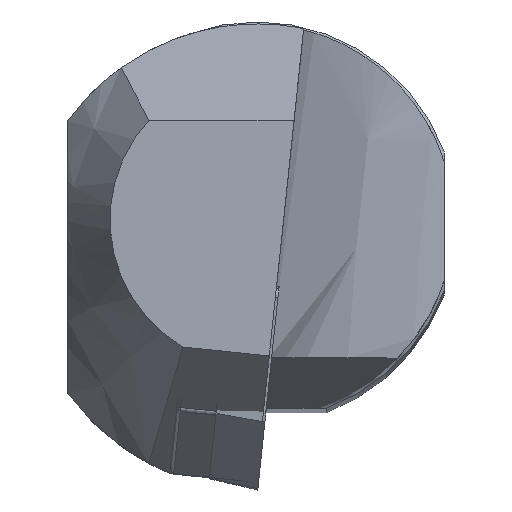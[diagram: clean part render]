
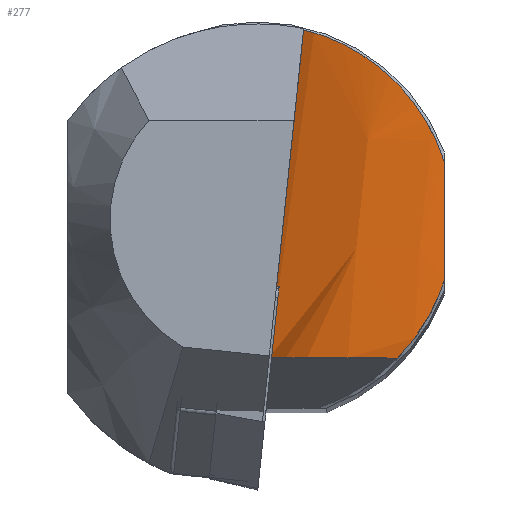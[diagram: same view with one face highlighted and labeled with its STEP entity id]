
A CAD part, top view. The second image highlights one B-rep face of the part: STEP entity #277.
In plain terms, the highlighted free-form (B-spline) face has degree [3, 3] with [4, 9] control points.
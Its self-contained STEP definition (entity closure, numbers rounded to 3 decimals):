
#101=B_SPLINE_SURFACE_WITH_KNOTS('',3,3,((#1968,#1969,#1970,#1971,#1972,
#1973,#1974,#1975,#1976),(#1977,#1978,#1979,#1980,#1981,#1982,#1983,#1984,
#1985),(#1986,#1987,#1988,#1989,#1990,#1991,#1992,#1993,#1994),(#1995,#1996,
#1997,#1998,#1999,#2000,#2001,#2002,#2003)),.UNSPECIFIED.,.F.,.F.,.F.,(4,
4),(4,1,2,1,1,4),(0.,1.),(0.,0.28,0.5,0.56,0.78,1.),
 .UNSPECIFIED.);
#125=B_SPLINE_CURVE_WITH_KNOTS('',3,(#1855,#1856,#1857,#1858),
 .UNSPECIFIED.,.F.,.F.,(4,4),(0.,1.),.UNSPECIFIED.);
#128=B_SPLINE_CURVE_WITH_KNOTS('',3,(#1878,#1879,#1880,#1881,#1882,#1883,
#1884,#1885),.UNSPECIFIED.,.F.,.F.,(4,2,2,4),(0.,0.25,0.5,1.),
 .UNSPECIFIED.);
#136=B_SPLINE_CURVE_WITH_KNOTS('',3,(#1956,#1957,#1958,#1959,#1960,#1961,
#1962,#1963),.UNSPECIFIED.,.F.,.F.,(4,1,2,1,4),(0.,0.24,0.321,
0.62,1.),.UNSPECIFIED.);
#137=B_SPLINE_CURVE_WITH_KNOTS('',3,(#1964,#1965,#1966,#1967),
 .UNSPECIFIED.,.F.,.F.,(4,4),(0.,1.),.UNSPECIFIED.);
#216=FACE_OUTER_BOUND('',#395,.T.);
#277=ADVANCED_FACE('',(#216),#101,.T.);
#395=EDGE_LOOP('',(#797,#798,#799,#800,#801));
#457=LINE('',#1739,#533);
#533=VECTOR('',#1422,1.);
#797=ORIENTED_EDGE('',*,*,#1106,.F.);
#798=ORIENTED_EDGE('',*,*,#1077,.T.);
#799=ORIENTED_EDGE('',*,*,#1107,.F.);
#800=ORIENTED_EDGE('',*,*,#1084,.T.);
#801=ORIENTED_EDGE('',*,*,#1041,.T.);
#918=VERTEX_POINT('',#1738);
#919=VERTEX_POINT('',#1740);
#938=VERTEX_POINT('',#1845);
#943=VERTEX_POINT('',#1854);
#948=VERTEX_POINT('',#1886);
#1041=EDGE_CURVE('',#919,#918,#457,.T.);
#1077=EDGE_CURVE('',#938,#943,#125,.T.);
#1084=EDGE_CURVE('',#948,#919,#128,.T.);
#1106=EDGE_CURVE('',#938,#918,#136,.T.);
#1107=EDGE_CURVE('',#948,#943,#137,.T.);
#1422=DIRECTION('',(-0.105,-0.995,0.));
#1738=CARTESIAN_POINT('',(0.955,-11.,-34.5));
#1739=CARTESIAN_POINT('',(-0.201,-21.999,-34.5));
#1740=CARTESIAN_POINT('',(3.72,15.304,-34.5));
#1845=CARTESIAN_POINT('',(11.272,-11.,-50.109));
#1854=CARTESIAN_POINT('',(15.,-4.802,-52.503));
#1855=CARTESIAN_POINT('',(11.272,-11.,-50.109));
#1856=CARTESIAN_POINT('',(12.851,-9.382,-51.335));
#1857=CARTESIAN_POINT('',(14.225,-7.224,-52.142));
#1858=CARTESIAN_POINT('',(15.,-4.802,-52.503));
#1878=CARTESIAN_POINT('',(15.,4.802,-51.777));
#1879=CARTESIAN_POINT('',(14.404,6.663,-51.186));
#1880=CARTESIAN_POINT('',(13.477,8.33,-50.309));
#1881=CARTESIAN_POINT('',(11.364,11.04,-48.052));
#1882=CARTESIAN_POINT('',(10.195,12.081,-46.683));
#1883=CARTESIAN_POINT('',(6.869,14.431,-42.062));
#1884=CARTESIAN_POINT('',(4.955,15.004,-38.409));
#1885=CARTESIAN_POINT('',(3.72,15.304,-34.5));
#1886=CARTESIAN_POINT('',(15.,4.802,-51.777));
#1956=CARTESIAN_POINT('',(11.272,-11.,-50.109));
#1957=CARTESIAN_POINT('',(10.128,-11.,-49.113));
#1958=CARTESIAN_POINT('',(8.673,-11.,-47.674));
#1959=CARTESIAN_POINT('',(7.351,-11.,-46.112));
#1960=CARTESIAN_POINT('',(5.83,-11.,-44.229));
#1961=CARTESIAN_POINT('',(3.4,-11.,-40.643));
#1962=CARTESIAN_POINT('',(1.676,-11.,-36.726));
#1963=CARTESIAN_POINT('',(0.955,-11.,-34.5));
#1964=CARTESIAN_POINT('',(15.,4.802,-51.777));
#1965=CARTESIAN_POINT('',(15.,1.601,-52.028));
#1966=CARTESIAN_POINT('',(15.,-1.6,-52.27));
#1967=CARTESIAN_POINT('',(15.,-4.802,-52.503));
#1968=CARTESIAN_POINT('',(4.378,21.56,-34.5));
#1969=CARTESIAN_POINT('',(5.098,21.56,-36.726));
#1970=CARTESIAN_POINT('',(6.822,21.56,-40.643));
#1971=CARTESIAN_POINT('',(9.252,21.56,-44.229));
#1972=CARTESIAN_POINT('',(10.773,21.56,-46.112));
#1973=CARTESIAN_POINT('',(12.336,21.56,-47.959));
#1974=CARTESIAN_POINT('',(15.458,21.56,-50.948));
#1975=CARTESIAN_POINT('',(18.537,21.56,-53.078));
#1976=CARTESIAN_POINT('',(20.128,21.56,-54.));
#1977=CARTESIAN_POINT('',(2.852,7.04,-34.5));
#1978=CARTESIAN_POINT('',(3.572,7.04,-36.726));
#1979=CARTESIAN_POINT('',(5.296,7.04,-40.643));
#1980=CARTESIAN_POINT('',(7.726,7.04,-44.229));
#1981=CARTESIAN_POINT('',(9.247,7.04,-46.112));
#1982=CARTESIAN_POINT('',(10.81,7.04,-47.959));
#1983=CARTESIAN_POINT('',(13.932,7.04,-50.948));
#1984=CARTESIAN_POINT('',(17.011,7.04,-53.078));
#1985=CARTESIAN_POINT('',(18.602,7.04,-54.));
#1986=CARTESIAN_POINT('',(1.325,-7.479,-34.5));
#1987=CARTESIAN_POINT('',(2.046,-7.479,-36.726));
#1988=CARTESIAN_POINT('',(3.77,-7.479,-40.643));
#1989=CARTESIAN_POINT('',(6.2,-7.479,-44.229));
#1990=CARTESIAN_POINT('',(7.721,-7.479,-46.112));
#1991=CARTESIAN_POINT('',(9.284,-7.479,-47.959));
#1992=CARTESIAN_POINT('',(12.406,-7.479,-50.948));
#1993=CARTESIAN_POINT('',(15.485,-7.479,-53.078));
#1994=CARTESIAN_POINT('',(17.075,-7.479,-54.));
#1995=CARTESIAN_POINT('',(-0.201,-21.999,-34.5));
#1996=CARTESIAN_POINT('',(0.52,-21.999,-36.726));
#1997=CARTESIAN_POINT('',(2.244,-21.999,-40.643));
#1998=CARTESIAN_POINT('',(4.674,-21.999,-44.229));
#1999=CARTESIAN_POINT('',(6.195,-21.999,-46.112));
#2000=CARTESIAN_POINT('',(7.758,-21.999,-47.959));
#2001=CARTESIAN_POINT('',(10.88,-21.999,-50.948));
#2002=CARTESIAN_POINT('',(13.959,-21.999,-53.078));
#2003=CARTESIAN_POINT('',(15.549,-21.999,-54.));
